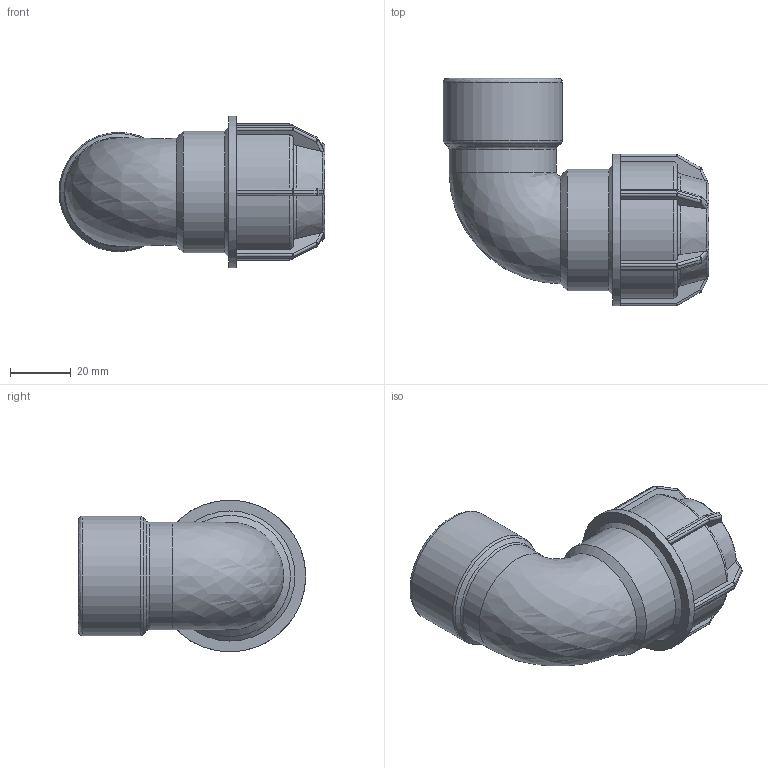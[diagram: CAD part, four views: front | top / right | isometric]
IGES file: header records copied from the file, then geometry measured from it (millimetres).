
Global section: file name: 141500025010.ipt; native system: Autodesk Inventor 2015; preprocessor: unknown; author: KIM; date: 20180409.131147; units: millimetre
Bounding box: 87.69 x 75 x 50 mm (x, y, z)
Volume: 74888.5 mm3; surface area: 26031.4 mm2
Topology: 1 solids, 1 shells, 215 faces, 522 edges, 307 vertices
Faces by surface type: plane 100, cylinder 58, revolution 24, sphere 24, cone 9
Full cylindrical faces by diameter (mm): 35.44 x1, 39.378 x1, 40 x1, 50 x1
